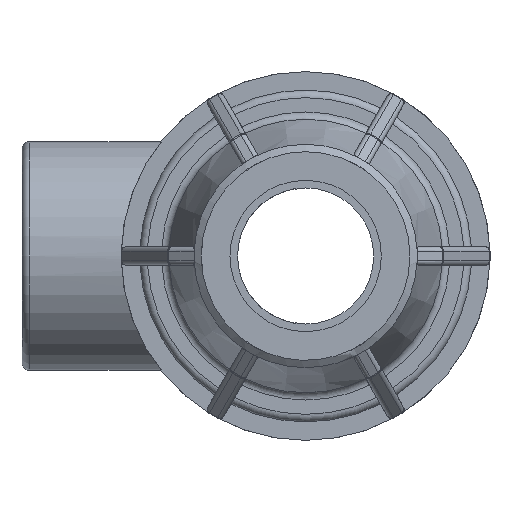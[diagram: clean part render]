
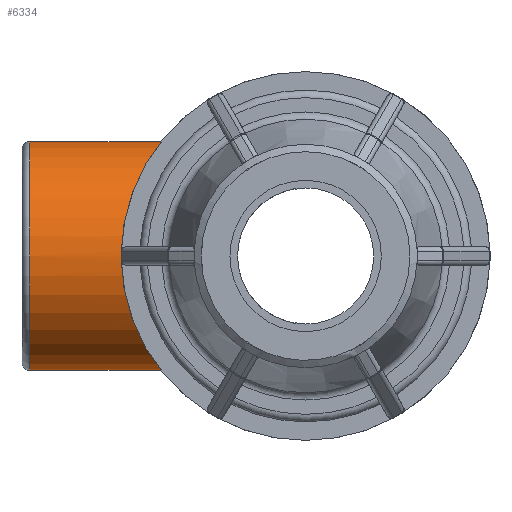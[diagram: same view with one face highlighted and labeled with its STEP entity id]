
A CAD part, left-side view. The second image highlights one B-rep face of the part: STEP entity #6334.
In plain terms, the highlighted cylindrical face has radius 12.11 mm (diameter 24.22 mm), a full revolution.
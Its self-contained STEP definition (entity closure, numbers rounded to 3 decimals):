
#1052=B_SPLINE_CURVE_WITH_KNOTS('',3,(#8997,#8998,#8999,#9000,#9001,#9002),
 .UNSPECIFIED.,.F.,.F.,(4,2,4),(1.807,2.015,2.222),
 .UNSPECIFIED.);
#1058=B_SPLINE_CURVE_WITH_KNOTS('',3,(#9053,#9054,#9055,#9056,#9057,#9058),
 .UNSPECIFIED.,.F.,.F.,(4,2,4),(5.836,6.044,6.251),
 .UNSPECIFIED.);
#1275=FACE_BOUND('',#2128,.T.);
#1684=FACE_OUTER_BOUND('',#2127,.T.);
#2127=EDGE_LOOP('',(#5785));
#2128=EDGE_LOOP('',(#5786,#5787,#5788,#5789));
#2480=CIRCLE('',#7090,12.11);
#2481=CIRCLE('',#7092,12.11);
#2482=CIRCLE('',#7093,12.11);
#2489=VERTEX_POINT('',#8995);
#2490=VERTEX_POINT('',#8996);
#2495=VERTEX_POINT('',#9043);
#2496=VERTEX_POINT('',#9052);
#3031=VERTEX_POINT('',#12088);
#3036=EDGE_CURVE('',#2489,#2490,#1052,.T.);
#3042=EDGE_CURVE('',#2496,#2495,#1058,.T.);
#3952=EDGE_CURVE('',#2489,#2495,#2480,.T.);
#3953=EDGE_CURVE('',#3031,#3031,#2481,.T.);
#3954=EDGE_CURVE('',#2496,#2490,#2482,.T.);
#5785=ORIENTED_EDGE('',*,*,#3953,.F.);
#5786=ORIENTED_EDGE('',*,*,#3042,.T.);
#5787=ORIENTED_EDGE('',*,*,#3952,.F.);
#5788=ORIENTED_EDGE('',*,*,#3036,.T.);
#5789=ORIENTED_EDGE('',*,*,#3954,.F.);
#5928=CYLINDRICAL_SURFACE('',#7091,12.11);
#6334=ADVANCED_FACE('',(#1684,#1275),#5928,.T.);
#7090=AXIS2_PLACEMENT_3D('',#12086,#8959,#8960);
#7091=AXIS2_PLACEMENT_3D('',#12087,#8961,#8962);
#7092=AXIS2_PLACEMENT_3D('',#12089,#8963,#8964);
#7093=AXIS2_PLACEMENT_3D('',#12090,#8965,#8966);
#8959=DIRECTION('center_axis',(0.,-1.,0.));
#8960=DIRECTION('ref_axis',(1.,0.,0.));
#8961=DIRECTION('center_axis',(0.,1.,0.));
#8962=DIRECTION('ref_axis',(-1.,0.,0.));
#8963=DIRECTION('center_axis',(0.,1.,0.));
#8964=DIRECTION('ref_axis',(1.,0.,0.));
#8965=DIRECTION('center_axis',(0.,-1.,0.));
#8966=DIRECTION('ref_axis',(1.,0.,0.));
#8995=CARTESIAN_POINT('',(-11.931,11.331,-2.076));
#8996=CARTESIAN_POINT('',(-11.931,11.331,2.076));
#8997=CARTESIAN_POINT('Ctrl Pts',(-11.931,11.331,-2.076));
#8998=CARTESIAN_POINT('Ctrl Pts',(-12.05,11.457,-1.391));
#8999=CARTESIAN_POINT('Ctrl Pts',(-12.11,11.52,-0.692));
#9000=CARTESIAN_POINT('Ctrl Pts',(-12.11,11.52,0.692));
#9001=CARTESIAN_POINT('Ctrl Pts',(-12.05,11.457,1.391));
#9002=CARTESIAN_POINT('Ctrl Pts',(-11.931,11.331,2.076));
#9043=CARTESIAN_POINT('',(11.931,11.331,-2.076));
#9052=CARTESIAN_POINT('',(11.931,11.331,2.076));
#9053=CARTESIAN_POINT('Ctrl Pts',(11.931,11.331,2.076));
#9054=CARTESIAN_POINT('Ctrl Pts',(12.05,11.457,1.391));
#9055=CARTESIAN_POINT('Ctrl Pts',(12.11,11.52,0.692));
#9056=CARTESIAN_POINT('Ctrl Pts',(12.11,11.52,-0.692));
#9057=CARTESIAN_POINT('Ctrl Pts',(12.05,11.457,-1.391));
#9058=CARTESIAN_POINT('Ctrl Pts',(11.931,11.331,-2.076));
#12086=CARTESIAN_POINT('Origin',(0.,11.331,0.));
#12087=CARTESIAN_POINT('Origin',(0.,20.5,0.));
#12088=CARTESIAN_POINT('',(-12.11,29.2,0.));
#12089=CARTESIAN_POINT('Origin',(0.,29.2,0.));
#12090=CARTESIAN_POINT('Origin',(0.,11.331,0.));
